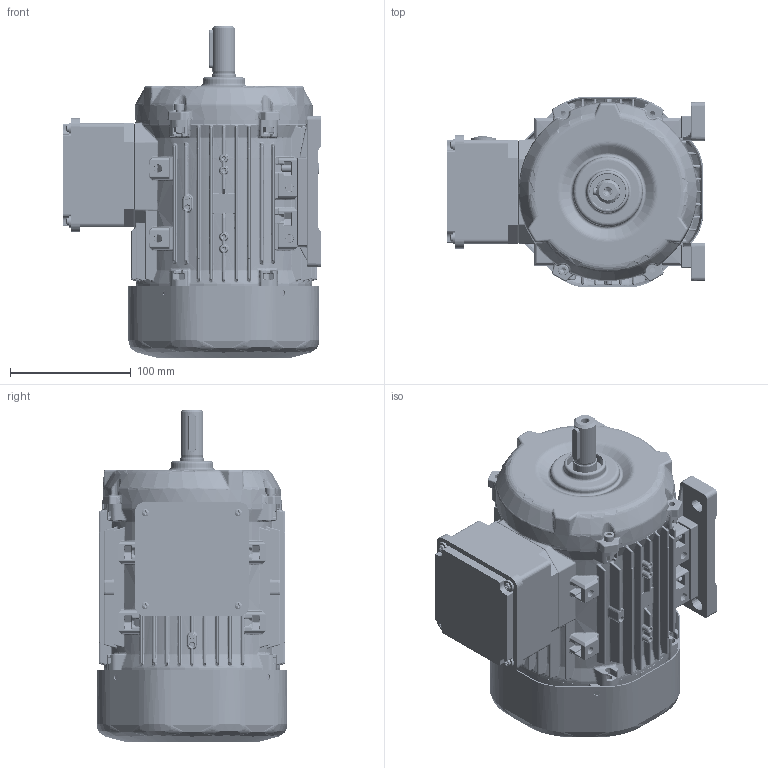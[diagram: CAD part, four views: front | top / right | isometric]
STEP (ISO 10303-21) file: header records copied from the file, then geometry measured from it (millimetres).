
FILE_DESCRIPTION(/* description */ (''),/* implementation_level */ '2;1');
FILE_NAME(/* name */ 'OUTLOOK VIEW QH80 KT B3 SPL.stp',/* time_stamp */ '2021-09-10T13:52:45+03:00',/* author */ (''),/* organization */ (''),/* preprocessor_version */ 'ST-DEVELOPER v16',/* originating_system */ 'SIEMENS PLM Software NX 11.0',/* authorisation */ '');
FILE_SCHEMA (('AUTOMOTIVE_DESIGN { 1 0 10303 214 3 1 1 1 }'));
Products named in the file (1): 26061960DD717o0h
Bounding box: 214.3 x 158 x 275 mm (x, y, z)
Volume: 2377412 mm3; surface area: 957940.8 mm2
Topology: 51 solids, 55 shells, 10476 faces, 25534 edges, 14698 vertices
Faces by surface type: cylinder 3134, bspline 3104, plane 2381, sphere 717, cone 537, torus 518, extrusion 85
Full cylindrical faces by diameter (mm): 0.1 x2, 3.3 x5, 3.985 x3, 4 x4, 4.2 x1, 4.22 x3, 4.5 x4, 5 x5, 5.3 x2, 5.5 x4, 6 x2, 6.4 x1, 6.6 x1, 8 x1, 8.5 x1, 10 x3, 18.38 x2, 18.4 x1, 19 x3, 19.4 x2, 20 x6, 20.2 x1, 20.5 x1, 25 x2, 28.8 x8, 30 x2, 38.45 x4, 40.59 x8, 47 x5, 47.05 x1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
Entity records: 418468 total; most frequent: CARTESIAN_POINT 151389, ORIENTED_EDGE 48752, DIRECTION 44152, EDGE_CURVE 24376, AXIS2_PLACEMENT_3D 18096, VERTEX_POINT 14533, EDGE_LOOP 11491, ADVANCED_FACE 10473
